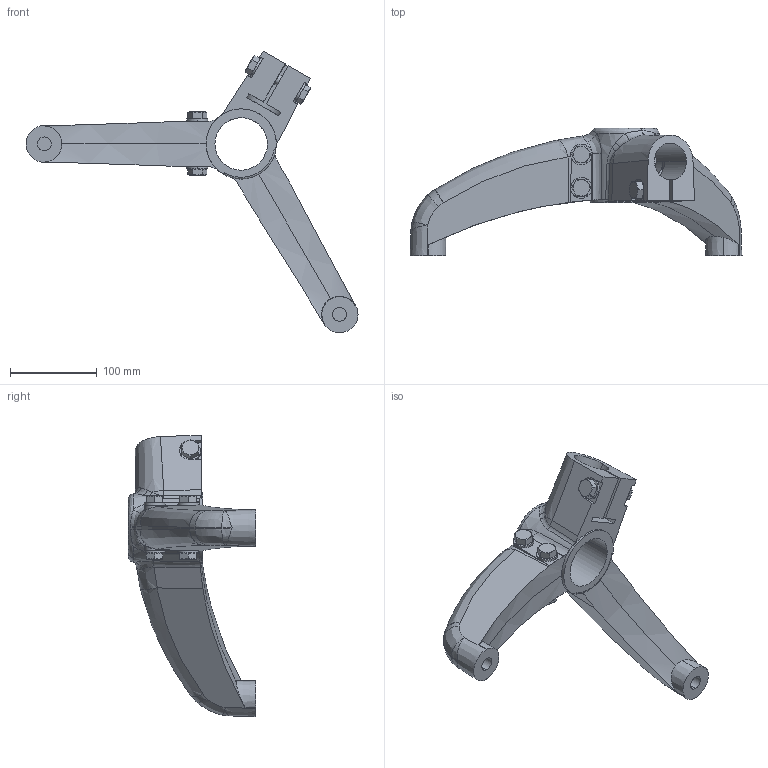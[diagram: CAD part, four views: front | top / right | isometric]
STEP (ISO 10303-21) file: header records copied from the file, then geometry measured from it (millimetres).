
FILE_DESCRIPTION (( 'STEP AP214' ), '1' );
FILE_NAME ('FABER - 331 2 120.STEP', '2017-04-05T12:16:45', ( '' ), ( '' ), 'SwSTEP 2.0', 'SolidWorks 2016', '' );
FILE_SCHEMA (( 'AUTOMOTIVE_DESIGN' ));
Length unit declared in the file: millimetre
Products named in the file (1): FABER - 331 2 120
Bounding box: 381.77 x 146.45 x 323.79 mm (x, y, z)
Volume: 1596381.2 mm3; surface area: 171672.5 mm2
Topology: 1 solids, 1 shells, 303 faces, 762 edges, 478 vertices
Faces by surface type: plane 107, cone 90, bspline 63, cylinder 43
Entity records: 21528 total; most frequent: CARTESIAN_POINT 14226, ORIENTED_EDGE 1524, EDGE_CURVE 762, DIRECTION 737, B_SPLINE_CURVE_WITH_KNOTS 510, VERTEX_POINT 478, EDGE_LOOP 324, ADVANCED_FACE 303
